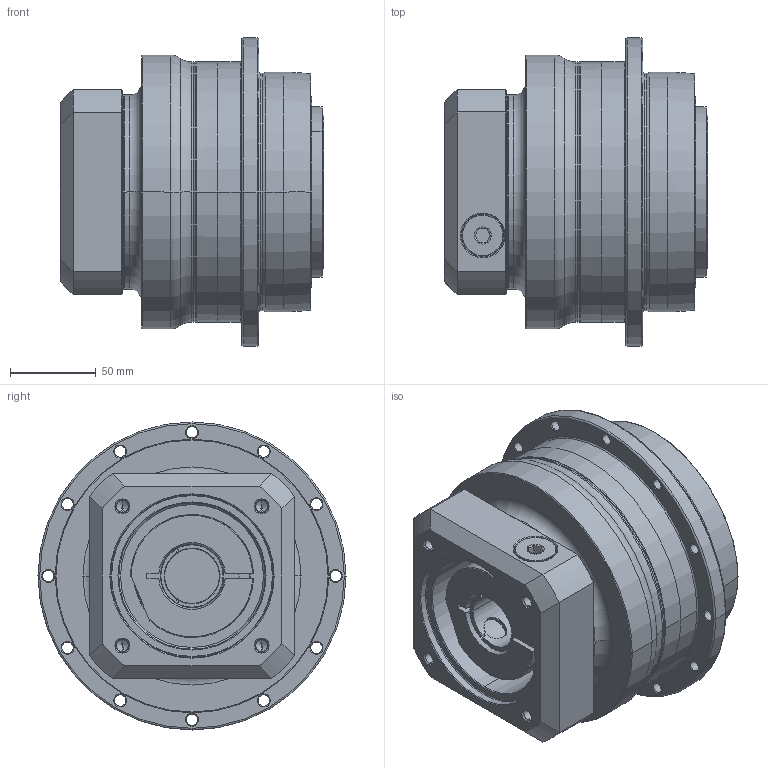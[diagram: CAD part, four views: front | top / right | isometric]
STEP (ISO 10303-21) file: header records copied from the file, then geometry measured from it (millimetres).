
FILE_DESCRIPTION((''),'2;1');
FILE_NAME('AH140_1ST_32-P0409700101_ASM','2016-08-12T',('d00435'),(''),'PRO/ENGINEER BY PARAMETRIC TECHNOLOGY CORPORATION, 2008410','PRO/ENGINEER BY PARAMETRIC TECHNOLOGY CORPORATION, 2008410','');
FILE_SCHEMA(('CONFIG_CONTROL_DESIGN'));
Length unit declared in the file: millimetre
Products named in the file (8): P0278500003; P0359500003; P1318500201; P0409700101; P0503700010; P0912502201; 21711418017; AH140_1ST_32-P0409700101_ASM
Assembly tree (7 placements, depth 2):
  AH140_1ST_32-P0409700101_ASM
    P0278500003
    P0359500003
    P1318500201
    P0409700101
    P0503700010
    P0912502201
    21711418017
Bounding box: 154 x 180 x 180 mm (x, y, z)
Volume: 2250565.8 mm3; surface area: 298062.1 mm2
Topology: 8 solids, 32 shells, 612 faces, 1419 edges, 861 vertices
Faces by surface type: cylinder 254, cone 168, plane 116, torus 60, bspline 14
Entity records: 21963 total; most frequent: CARTESIAN_POINT 7641, DIRECTION 3277, ORIENTED_EDGE 2650, AXIS2_PLACEMENT_3D 1392, EDGE_CURVE 1373, VERTEX_POINT 861, CIRCLE 769, EDGE_LOOP 734
